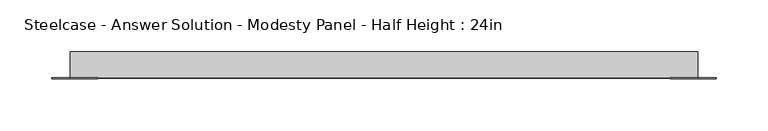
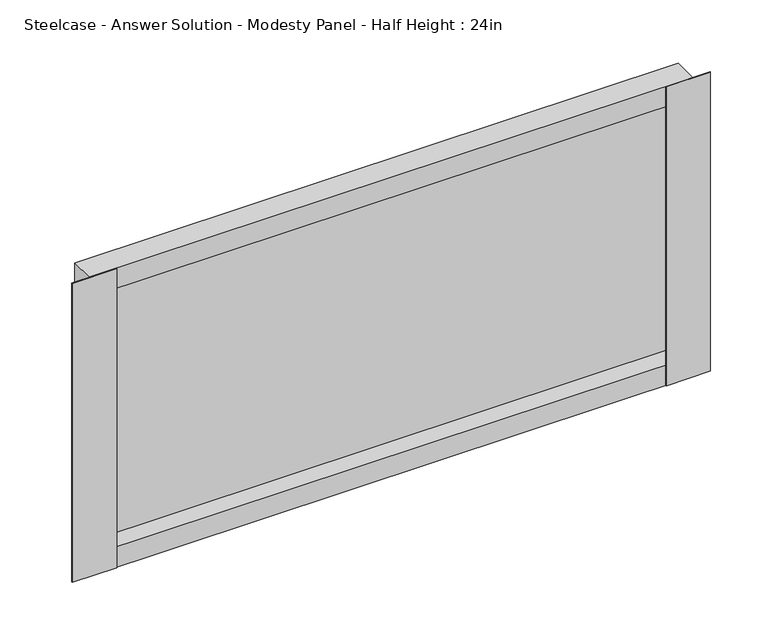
"""IFC4 building model written with IfcOpenShell, lengths in millimetres: furniture geometry, Steelcase - Answer Solution - Modesty Panel - Half Height : 24in."""

from ifc_helpers import new_model, si_unit, frame, origin, place, context, project, spatial, polyline, outline, extrude, faceted_brep, source, transform, mapped, element, save


def steelcase_answer_solution_modesty_panel_half_height_24in_c1b3407e(model_context):
    return source(origin(), model_context, "Body", "SolidModel", [
        extrude(outline(polyline([(1153.1400478, -14.2668826), (1153.1400478, -15.0593624), (1108.7248254, -15.0593624), (1108.7248254, -14.2668826), (1153.1400478, -14.2668826)])), frame((0.0, 0.0, 17.653), z_axis=(0.0, 0.0, 1.0), x_axis=(1.0, 0.0, 0.0)), (0.0, 0.0, 1.0), 317.5),
        extrude(outline(polyline([(556.9673392, -14.2668826), (556.9673392, -15.0593624), (512.5520826, -15.0593624), (512.5520826, -14.2668826), (556.9673392, -14.2668826)])), frame((0.0, 0.0, 17.653), z_axis=(0.0, 0.0, 1.0), x_axis=(1.0, 0.0, 0.0)), (0.0, 0.0, 1.0), 317.5),
        faceted_brep([(530.0780827, 10.9045177, 17.653), (530.0780827, -14.2668826, 17.653), (530.0780827, -14.2668826, 335.153), (530.0780827, 10.9045177, 335.153), (1135.6140827, -14.2668826, 17.653), (1135.6140827, 10.9045177, 17.653), (1135.6140827, 10.9045177, 335.153), (1135.6140827, -14.2668826, 335.153), (1134.8216165, 4.7831174, 39.243), (530.8705628, 4.7831174, 39.243), (530.8705628, -14.2668826, 39.243), (1134.8216165, -14.2668826, 39.243), (530.8705628, -14.2668826, 313.563), (1134.8216165, -14.2668826, 313.563), (530.8705628, 4.7831174, 313.563), (1134.8216165, 4.7831174, 313.563)], [[[0, 1, 2, 3]], [[4, 5, 6, 7]], [[8, 9, 10, 11]], [[0, 3, 6, 5]], [[4, 1, 0, 5]], [[2, 1, 4, 7], [10, 12, 13, 11]], [[3, 2, 7, 6]], [[14, 15, 13, 12]], [[9, 8, 15, 14]], [[12, 10, 9, 14]], [[11, 13, 15, 8]]]),
    ])


if __name__ == "__main__":
    model = new_model("IFC4")
    model_context = context("Model", 3, world=origin())
    ifc_project = project(units=[si_unit("LENGTHUNIT", "METRE", prefix="MILLI")], contexts=[model_context])
    site = spatial("IfcSite", under=ifc_project)
    building = spatial("IfcBuilding", under=site)
    placement = place(None, origin())
    steelcase_answer_solution_modesty_panel_half_height_24in_shape = steelcase_answer_solution_modesty_panel_half_height_24in_c1b3407e(model_context)
    element("IfcFurniture", 1, ObjectType="Steelcase - Answer Solution - Modesty Panel - Half Height : 24in", at=placement, inside=building, context=model_context, shape_type="MappedRepresentation", body=[
        mapped(steelcase_answer_solution_modesty_panel_half_height_24in_shape, transform((0.0, 0.0, 0.0), x_axis=(1.0, 0.0, 0.0), y_axis=(0.0, 1.0, 0.0), z_axis=(0.0, 0.0, 1.0))),
    ])
    save(model, "model.ifc")
